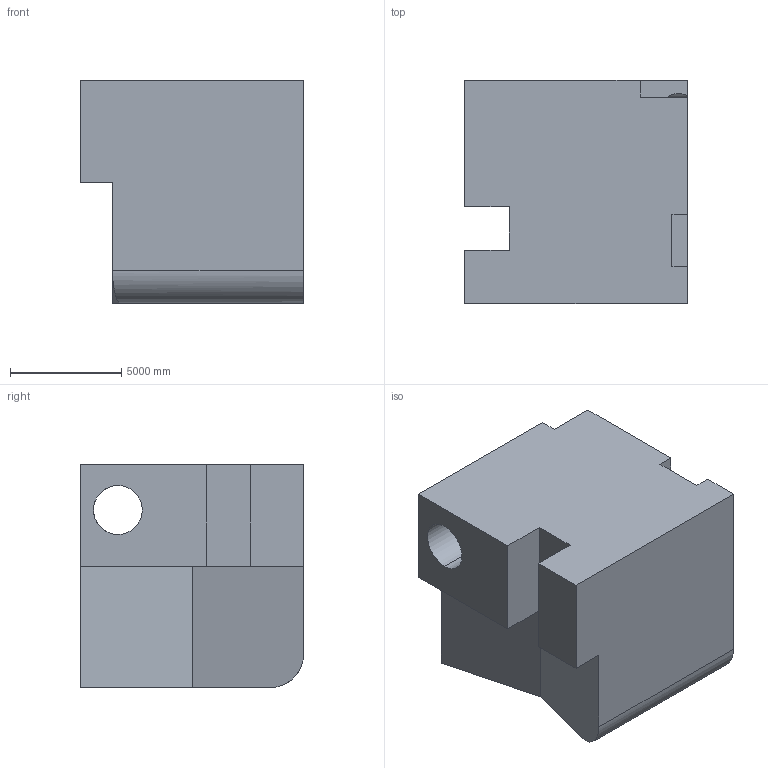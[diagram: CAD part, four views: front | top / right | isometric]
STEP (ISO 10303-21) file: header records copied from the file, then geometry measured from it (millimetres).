
FILE_DESCRIPTION (( 'STEP AP203' ), '1' );
FILE_NAME ('162.STEP', '2022-09-06T13:28:41', ( 'user' ), ( '' ), 'SwSTEP 2.0', 'SolidWorks 2021', '' );
FILE_SCHEMA (( 'CONFIG_CONTROL_DESIGN' ));
Length unit declared in the file: centimetre
Products named in the file (1): 162
Bounding box: 10000 x 10000 x 10000 mm (x, y, z)
Volume: 820700368574.7 mm3; surface area: 659308446.8 mm2
Topology: 1 solids, 1 shells, 27 faces, 75 edges, 50 vertices
Faces by surface type: plane 24, cylinder 3
Entity records: 936 total; most frequent: CARTESIAN_POINT 159, ORIENTED_EDGE 150, DIRECTION 135, EDGE_CURVE 75, VECTOR 67, LINE 67, VERTEX_POINT 50, AXIS2_PLACEMENT_3D 34
